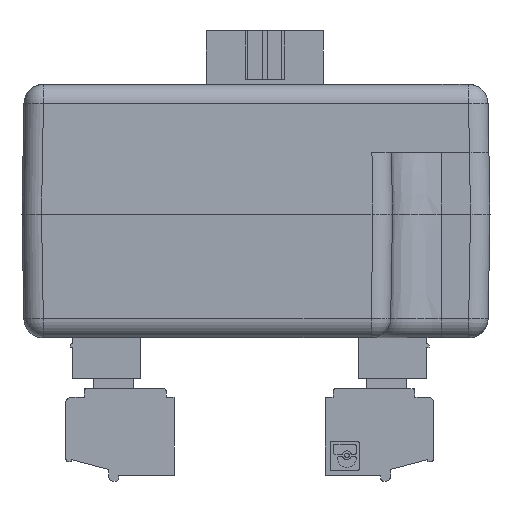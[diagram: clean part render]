
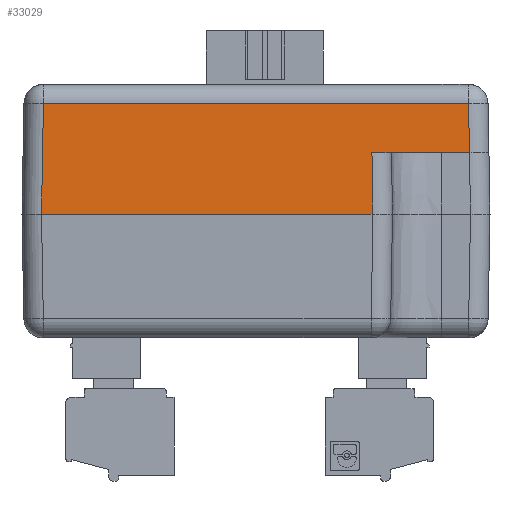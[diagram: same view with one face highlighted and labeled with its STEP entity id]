
A CAD part, left-side view. The second image highlights one B-rep face of the part: STEP entity #33029.
In plain terms, the highlighted planar face has unit normal (-1, 0, 0.018).
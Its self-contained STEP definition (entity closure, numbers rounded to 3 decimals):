
#5840=FACE_OUTER_BOUND('',#43520,.T.);
#13524=LINE('',#174982,#24303);
#13738=LINE('',#175524,#24517);
#13741=LINE('',#175538,#24520);
#13742=LINE('',#175539,#24521);
#13743=LINE('',#175541,#24522);
#13744=LINE('',#175543,#24523);
#24303=VECTOR('',#129198,1.);
#24517=VECTOR('',#129608,1.);
#24520=VECTOR('',#129621,1.);
#24521=VECTOR('',#129622,1.);
#24522=VECTOR('',#129623,1.);
#24523=VECTOR('',#129624,1.);
#33029=ADVANCED_FACE('',(#5840),#37386,.T.);
#37386=PLANE('',#109783);
#43520=EDGE_LOOP('',(#62492,#62493,#62494,#62495,#62496,#62497));
#62492=ORIENTED_EDGE('',*,*,#94589,.T.);
#62493=ORIENTED_EDGE('',*,*,#94301,.T.);
#62494=ORIENTED_EDGE('',*,*,#94590,.T.);
#62495=ORIENTED_EDGE('',*,*,#94591,.F.);
#62496=ORIENTED_EDGE('',*,*,#94592,.T.);
#62497=ORIENTED_EDGE('',*,*,#94582,.T.);
#81892=VERTEX_POINT('',#174981);
#81893=VERTEX_POINT('',#174983);
#82118=VERTEX_POINT('',#175523);
#82119=VERTEX_POINT('',#175525);
#82125=VERTEX_POINT('',#175540);
#82126=VERTEX_POINT('',#175542);
#94301=EDGE_CURVE('',#81893,#81892,#13524,.T.);
#94582=EDGE_CURVE('',#82119,#82118,#13738,.T.);
#94589=EDGE_CURVE('',#82118,#81893,#13741,.T.);
#94590=EDGE_CURVE('',#81892,#82125,#13742,.T.);
#94591=EDGE_CURVE('',#82126,#82125,#13743,.T.);
#94592=EDGE_CURVE('',#82126,#82119,#13744,.T.);
#109783=AXIS2_PLACEMENT_3D('',#175544,#129625,#129626);
#129198=DIRECTION('',(0.,1.,0.));
#129608=DIRECTION('',(0.,-1.,0.));
#129621=DIRECTION('',(0.017,0.017,1.));
#129622=DIRECTION('',(-0.017,0.017,-1.));
#129623=DIRECTION('',(0.,1.,0.));
#129624=DIRECTION('',(0.017,0.017,1.));
#129625=DIRECTION('',(-1.,0.,0.017));
#129626=DIRECTION('',(0.017,0.,1.));
#174981=CARTESIAN_POINT('',(-53.802,36.202,-33.465));
#174982=CARTESIAN_POINT('',(-53.802,14.4,-33.465));
#174983=CARTESIAN_POINT('',(-53.802,-7.402,-33.465));
#175523=CARTESIAN_POINT('',(-53.89,-7.49,-38.5));
#175524=CARTESIAN_POINT('',(-53.89,14.4,-38.5));
#175525=CARTESIAN_POINT('',(-53.89,2.51,-38.5));
#175538=CARTESIAN_POINT('',(-53.993,-7.594,-44.416));
#175539=CARTESIAN_POINT('',(-53.993,36.394,-44.416));
#175540=CARTESIAN_POINT('',(-54.,36.4,-44.8));
#175541=CARTESIAN_POINT('',(-54.,14.4,-44.8));
#175542=CARTESIAN_POINT('',(-54.,2.4,-44.8));
#175543=CARTESIAN_POINT('',(-53.821,2.579,-34.535));
#175544=CARTESIAN_POINT('',(-54.,14.4,-44.8));
